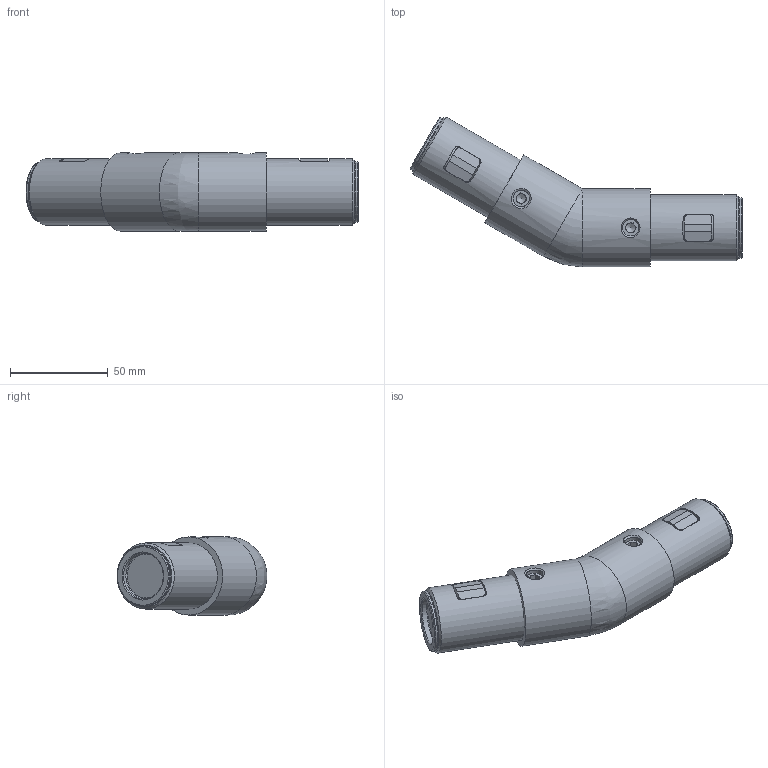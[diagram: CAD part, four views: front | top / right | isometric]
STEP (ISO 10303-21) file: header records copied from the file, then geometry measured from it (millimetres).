
FILE_DESCRIPTION(/* description */ ('STEP AP203'),/* implementation_level */ '2;1');
FILE_NAME(/* name */ 'C:\Users\Stefan.Nesic\Desktop\01010STEP\000Verifica\CORRETTI\CSP40-150A.stp',/* time_stamp */ '2022-07-11T15:02:22+02:00',/* author */ ('USER'),/* organization */ ('Microsoft'),/* preprocessor_version */ 'ST-DEVELOPER v18.1',/* originating_system */ 'Autodesk Inventor 2021',/* authorisation */ '');
FILE_SCHEMA (('AUTOMOTIVE_DESIGN { 1 0 10303 214 3 1 1 }'));
Length unit declared in the file: millimetre
Products named in the file (1): CSP40-150A
Bounding box: 169.91 x 76.74 x 40 mm (x, y, z)
Volume: 161694.2 mm3; surface area: 46334.6 mm2
Topology: 11 solids, 11 shells, 205 faces, 494 edges, 316 vertices
Faces by surface type: plane 118, cylinder 46, cone 22, torus 10, bspline 9
Full cylindrical faces by diameter (mm): 8.5 x2, 9.9 x4, 10 x4, 11.9 x2, 12.2 x2, 23.6 x2, 25.8 x2, 31 x2, 33.8 x2, 40 x2
Entity records: 11398 total; most frequent: CARTESIAN_POINT 6577, DIRECTION 999, ORIENTED_EDGE 976, EDGE_CURVE 488, AXIS2_PLACEMENT_3D 367, VERTEX_POINT 316, LINE 265, VECTOR 265
